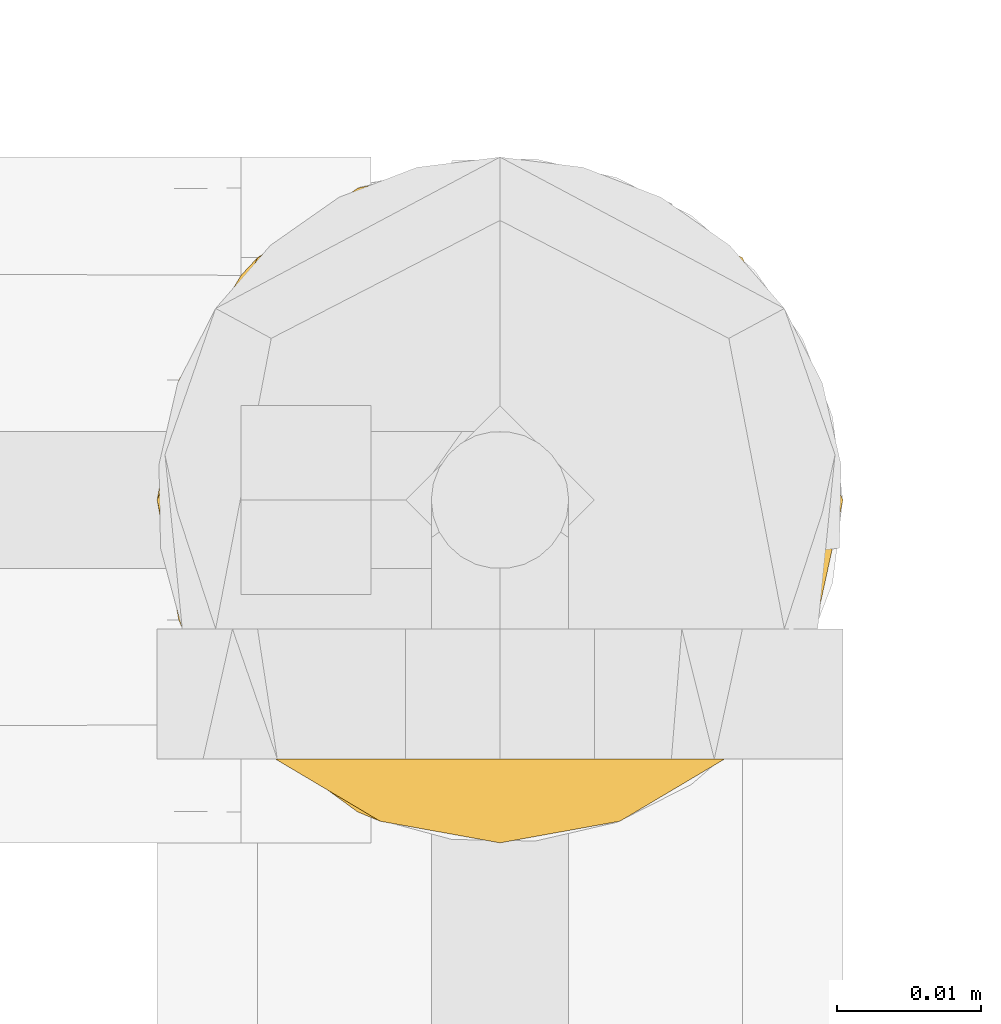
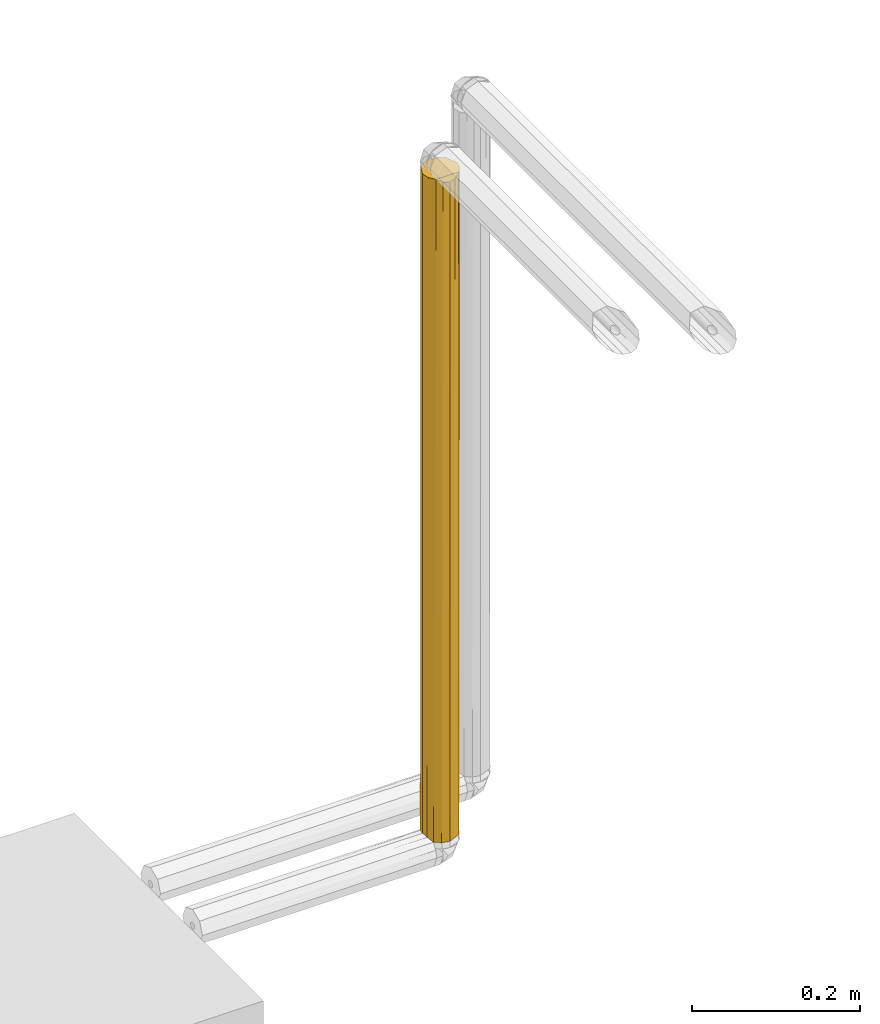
# One storey, part 212 of 652: 1 covering.
"""IFC2X3 building model written with IfcOpenShell, lengths in millimetres."""

from ifc_helpers import new_model, entity, si_unit, converted_unit, direction, frame, origin, place, context, subcontext, project, spatial, faceted_brep, material, type_object, element, save


model = new_model("IFC2X3")

# Units and contexts
model_context = context("Model", 3, precision=0.01, world=frame((0.0, 0.0, 308426.39999999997)), true_north=direction((6.123233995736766e-17, 1.0)))
plan_context = context("Plan", 3, precision=0.01, world=frame((0.0, 0.0, 308426.39999999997)), true_north=direction((6.123233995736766e-17, 1.0)))
body_context = subcontext(model_context, "Body", "Model", "MODEL_VIEW")
ifc_project = project(units=[si_unit("LENGTHUNIT", "METRE", prefix="MILLI"), si_unit("AREAUNIT", "SQUARE_METRE"), si_unit("VOLUMEUNIT", "CUBIC_METRE"), converted_unit("PLANEANGLEUNIT", "DEGREE", entity("IfcPlaneAngleMeasure", 0.017453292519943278), si_unit("PLANEANGLEUNIT", "RADIAN"), dimensions=[0, 0, 0, 0, 0, 0, 0])], contexts=[model_context, plan_context])

# Site, building, storey
site_placement = place(None, origin())
site = spatial("IfcSite", under=ifc_project, at=site_placement, Name="Default", CompositionType="ELEMENT")
building_placement = place(site_placement, origin())
building = spatial("IfcBuilding", under=site, at=building_placement, CompositionType="ELEMENT")
storey_placement = place(building_placement, frame((0.0, 0.0, 1730.6999999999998)))
storey = spatial("IfcBuildingStorey", under=building, at=storey_placement, Name="EG_Produktion_FFB", CompositionType="ELEMENT", Elevation=1730.6999999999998)

# Covering
ifc_material = material(Name="Dämmung - Armaflex-Schlauch")
covering_type = type_object("IfcCoveringType", Name="Rohrdämmung außen:Armaflex-Schlauch", PredefinedType="INSULATION")
covering_placement = place(storey_placement, frame((40394.6422277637, 81852.02347776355, 2716.3549777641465)))
element("IfcCovering", 1, at=covering_placement, inside=storey, type_object=covering_type, material=ifc_material, Name="Rohrdämmung außen:Armaflex-Schlauch", ObjectType="Rohrdämmung außen:Armaflex-Schlauch", PredefinedType="INSULATION", context=body_context, shape_type="Brep", body=[
    faceted_brep([(25.35777223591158, 1.5952722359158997, 1.595272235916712), (20.42323069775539, 2.6684511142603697, 1.595272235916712), (15.488689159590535, 3.7416299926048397, 1.595272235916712), (11.448105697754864, 6.764379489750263, 1.595272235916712), (7.407522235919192, 9.787128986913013, 1.595272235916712), (7.407522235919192, 40.92841548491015, 1.595272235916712), (11.448105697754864, 43.951164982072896, 1.5952722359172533), (15.488689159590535, 46.97391447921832, 1.595272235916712), (20.42323069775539, 48.047093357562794, 1.595272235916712), (25.35777223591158, 49.12027223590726, 1.595272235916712), (30.631482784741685, 46.9358298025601, 1.595272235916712), (33.759084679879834, 45.64033467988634, 1.595272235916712), (37.95974090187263, 43.90036590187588, 1.595272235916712), (42.160397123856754, 42.160397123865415, 1.595272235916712), (43.90036590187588, 37.95974090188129, 1.595272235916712), (45.64033467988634, 33.759084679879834, 1.595272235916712), (47.3803034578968, 29.558428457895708, 1.595272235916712), (49.12027223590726, 25.35777223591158, 1.595272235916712), (47.3803034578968, 21.157116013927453, 1.595272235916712), (45.64033467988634, 16.956459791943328, 1.595272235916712), (43.90036590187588, 12.755803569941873, 1.595272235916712), (42.160397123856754, 8.555147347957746, 1.595272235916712), (37.95974090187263, 6.815178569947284, 1.595272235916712), (33.759084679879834, 5.075209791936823, 1.595272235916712), (29.558428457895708, 3.3352410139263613, 1.595272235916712), (9.787128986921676, 7.407522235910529, 965.6947722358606), (40.928415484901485, 7.407522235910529, 965.6947722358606), (43.951164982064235, 11.448105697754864, 965.6947722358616), (46.97391447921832, 15.488689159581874, 965.6947722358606), (48.047093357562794, 20.42323069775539, 965.6947722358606), (49.1202722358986, 25.35777223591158, 965.6947722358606), (46.93582980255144, 30.631482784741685, 965.6947722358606), (44.75138736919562, 35.90519333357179, 965.6947722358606), (42.16039712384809, 42.160397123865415, 965.6947722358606), (37.95974090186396, 43.90036590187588, 965.6947722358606), (33.759084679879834, 45.64033467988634, 965.6947722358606), (29.558428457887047, 47.3803034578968, 965.6947722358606), (25.357772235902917, 49.12027223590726, 965.6947722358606), (20.08406168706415, 46.93582980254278, 965.6947722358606), (16.956459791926, 45.640334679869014, 965.6947722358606), (12.755803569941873, 43.90036590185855, 965.6947722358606), (8.555147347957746, 42.160397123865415, 965.6947722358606), (6.815178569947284, 37.95974090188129, 965.6947722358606), (5.075209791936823, 33.759084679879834, 965.6947722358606), (3.3352410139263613, 29.558428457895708, 965.6947722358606), (1.5952722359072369, 25.35777223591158, 965.6947722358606), (2.6684511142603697, 20.42323069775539, 965.6947722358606), (3.7416299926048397, 15.488689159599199, 965.6947722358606), (6.764379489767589, 11.448105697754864, 965.6947722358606), (33.66781407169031, 3.095705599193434, 961.3829555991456), (37.2981147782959, 5.251613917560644, 963.5388639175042), (29.51279315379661, 2.345488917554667, 960.6327389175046), (25.357772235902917, 1.5952722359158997, 959.8825222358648), (13.417429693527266, 5.251613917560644, 963.5388639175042), (17.04773040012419, 3.095705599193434, 961.3829555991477), (19.623975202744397, 2.630547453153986, 960.9177974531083), (1.5952722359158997, 25.35777223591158, 7.4075222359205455), (2.345488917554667, 21.20275131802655, 6.657305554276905), (3.095705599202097, 17.04773040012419, 5.907088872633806), (5.251613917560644, 13.417429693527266, 3.751180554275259), (2.345488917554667, 29.51279315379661, 6.657305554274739), (3.095705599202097, 33.66781407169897, 5.907088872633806), (5.251613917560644, 37.2981147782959, 3.7511805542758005)], [[[0, 1, 2, 3, 4, 5, 6, 7, 8, 9, 10, 11, 12, 13, 14, 15, 16, 17, 18, 19, 20, 21, 22, 23, 24]], [[25, 26, 27, 28, 29, 30, 31, 32, 33, 34, 35, 36, 37, 38, 39, 40, 41, 42, 43, 44, 45, 46, 47, 48]], [[30, 18, 17]], [[23, 49, 24]], [[18, 30, 29]], [[29, 19, 18]], [[26, 21, 27]], [[22, 26, 50]], [[50, 49, 23]], [[51, 52, 0]], [[28, 27, 20]], [[27, 21, 20]], [[28, 20, 19]], [[24, 49, 51]], [[21, 26, 22]], [[29, 28, 19]], [[50, 23, 22]], [[51, 0, 24]], [[53, 25, 3]], [[54, 1, 52, 55]], [[1, 54, 2]], [[52, 1, 0]], [[53, 3, 2]], [[45, 56, 57]], [[46, 58, 47]], [[2, 54, 53]], [[59, 4, 48]], [[57, 58, 46]], [[47, 58, 59]], [[25, 4, 3]], [[47, 59, 48]], [[4, 25, 48]], [[45, 57, 46]], [[45, 60, 56]], [[8, 39, 38, 37]], [[60, 45, 44]], [[61, 43, 62]], [[6, 41, 40]], [[41, 6, 5]], [[39, 8, 7]], [[5, 42, 41]], [[43, 61, 44]], [[5, 62, 42]], [[40, 7, 6]], [[40, 39, 7]], [[44, 61, 60]], [[37, 9, 8]], [[62, 43, 42]], [[30, 17, 16, 15, 14, 13, 33, 32, 31]], [[12, 11, 10, 9, 37, 36, 35, 34, 33, 13]], [[60, 61, 62, 5, 4, 59, 58, 57, 56]], [[49, 50, 26, 25, 53, 54, 55, 52, 51]]]),
])

save(model, "model.ifc")
